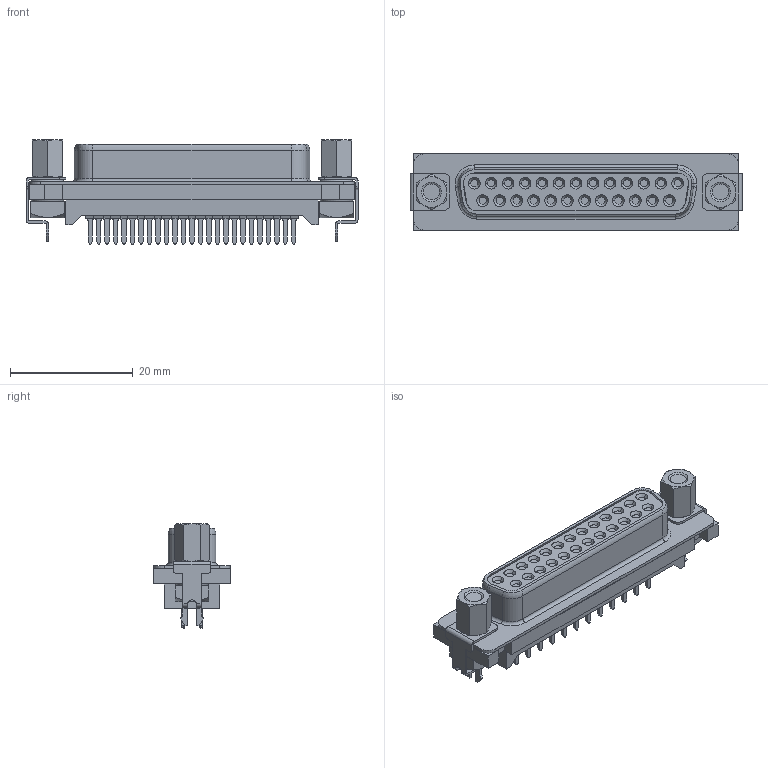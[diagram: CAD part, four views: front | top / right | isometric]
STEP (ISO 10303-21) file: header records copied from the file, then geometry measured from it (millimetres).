
FILE_DESCRIPTION (( 'STEP AP203' ), '1' );
FILE_NAME ('17JE-13250-37(D23A)-FA.STEP', '2021-12-21T10:36:31', ( '' ), ( '' ), 'SwSTEP 2.0', 'SolidWorks 2018', '' );
FILE_SCHEMA (( 'CONFIG_CONTROL_DESIGN' ));
Length unit declared in the file: millimetre
Products named in the file (1): 17JE-13250-37(D23A)-FA
Bounding box: 54.04 x 12.5 x 17 mm (x, y, z)
Volume: 5037.3 mm3; surface area: 5222.8 mm2
Topology: 1 solids, 5 shells, 993 faces, 2541 edges, 1630 vertices
Faces by surface type: plane 662, cylinder 194, cone 79, torus 58
Entity records: 30138 total; most frequent: CARTESIAN_POINT 5473, DIRECTION 5167, ORIENTED_EDGE 5082, EDGE_CURVE 2541, LINE 1799, VECTOR 1799, AXIS2_PLACEMENT_3D 1684, VERTEX_POINT 1630
